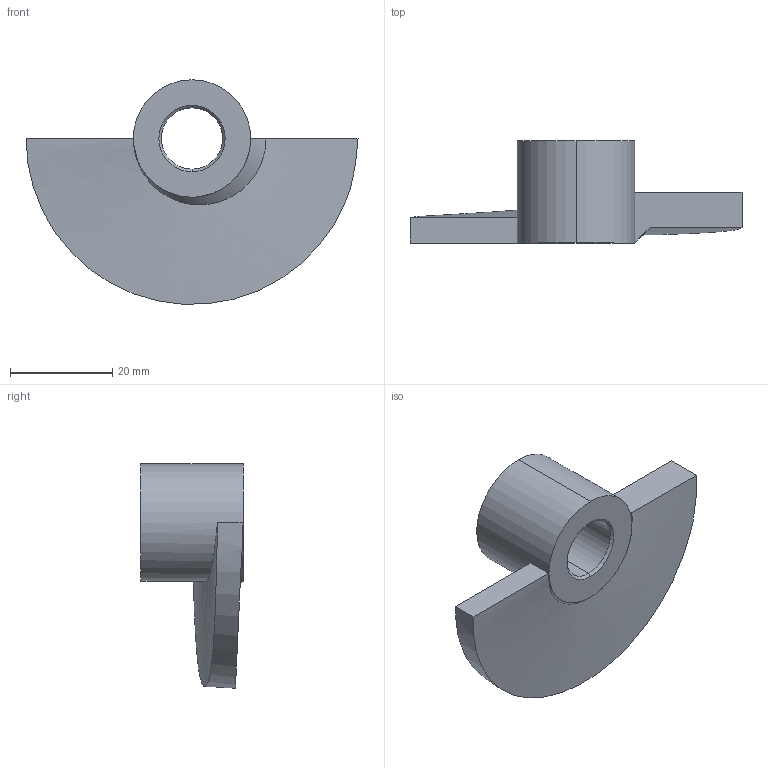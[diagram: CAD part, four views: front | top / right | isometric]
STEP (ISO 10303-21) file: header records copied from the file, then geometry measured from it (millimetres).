
FILE_DESCRIPTION (( 'STEP AP203' ), '1' );
FILE_NAME ('Wiberger-gn218_l_65x12.step', '2014-08-05T06:37:36', ( 'Magnus' ), ( 'Microsoft' ), 'SwSTEP 2.0', 'SolidWorks 2014', '' );
FILE_SCHEMA (( 'CONFIG_CONTROL_DESIGN' ));
Length unit declared in the file: millimetre
Products named in the file (1): Wiberger-gn218_l_65x12
Bounding box: 65 x 20 x 43.95 mm (x, y, z)
Volume: 14705.7 mm3; surface area: 6284.6 mm2
Topology: 1 solids, 1 shells, 24 faces, 54 edges, 31 vertices
Faces by surface type: cylinder 10, bspline 6, cone 4, plane 4
Entity records: 1370 total; most frequent: CARTESIAN_POINT 799, ORIENTED_EDGE 106, DIRECTION 92, EDGE_CURVE 53, AXIS2_PLACEMENT_3D 37, VERTEX_POINT 31, EDGE_LOOP 26, ADVANCED_FACE 24
